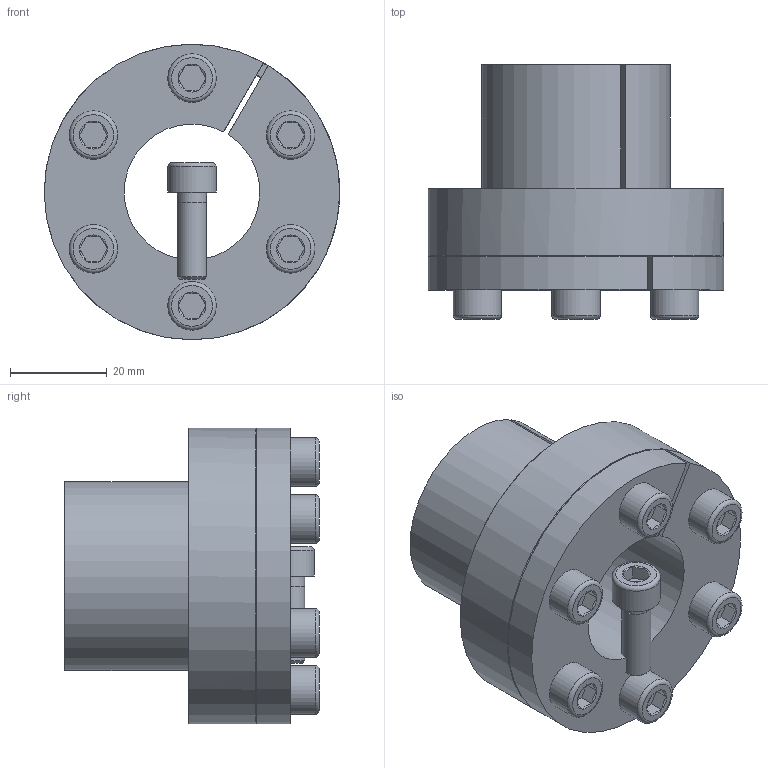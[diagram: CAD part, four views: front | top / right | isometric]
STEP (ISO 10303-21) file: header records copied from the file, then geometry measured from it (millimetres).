
FILE_DESCRIPTION( ( 'Unknown' ), '1' );
FILE_NAME( 'C:/Dokumente und Einstellungen/Sven/Desktop/homepage/cad - homepage/KBS80/KBS 80 - 28 x 39.stp', 'Unknown', ( 'Unknown' ), ( 'Unknown' ), 'XStep 1.0', 'Unknown', ' ' );
FILE_SCHEMA( ( 'automotive_design' ) );
Length unit declared in the file: millimetre
Products named in the file (8): Assem1; KBS 80 - 28 x 39; ISO EN DIN 4762 M6x18; ISO EN DIN 4762 M6x18-oa0; ISO EN DIN 4762 M6x18-oa1; ISO EN DIN 4762 M6x18-oa2; ISO EN DIN 4762 M6x18-oa3; ISO EN DIN 4762 M6x18-oa4
Bounding box: 61 x 52.5 x 61 mm (x, y, z)
Volume: 128875 mm3; surface area: 46255.1 mm2
Topology: 14 solids, 14 shells, 352 faces, 666 edges, 388 vertices
Faces by surface type: plane 160, cone 98, cylinder 70, torus 24
Full cylindrical faces by diameter (mm): 5 x12, 6 x36, 10 x12, 61 x2
Entity records: 4529 total; most frequent: CARTESIAN_POINT 931, DIRECTION 724, ORIENTED_EDGE 534, AXIS2_PLACEMENT_3D 317, EDGE_CURVE 267, EDGE_LOOP 265, FACE_OUTER_BOUND 219, VERTEX_POINT 180
